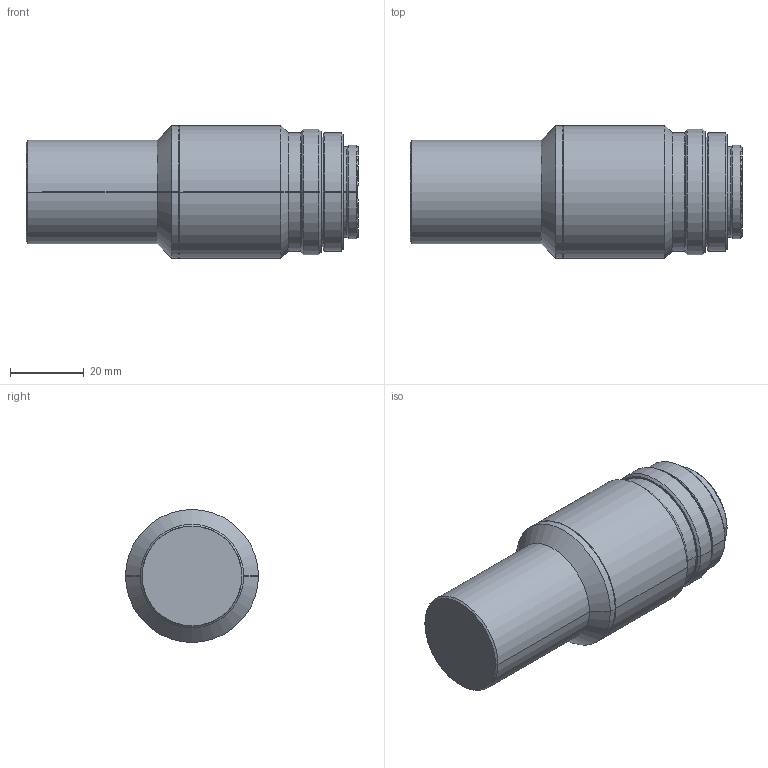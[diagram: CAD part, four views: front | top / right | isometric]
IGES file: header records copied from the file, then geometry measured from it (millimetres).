
Start section: SolidWorks IGES file using analytic representation for surfaces
Bounding box: 89.9 x 36 x 36 mm (x, y, z)
Surface area: 10914.6 mm2 (no closed solid volume)
Topology: 0 solids, 0 shells, 50 faces, 720 edges, 720 vertices
Faces by surface type: revolution 44, bspline 6
